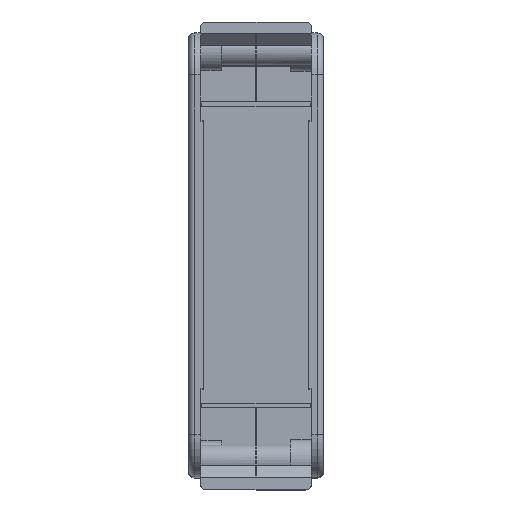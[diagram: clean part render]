
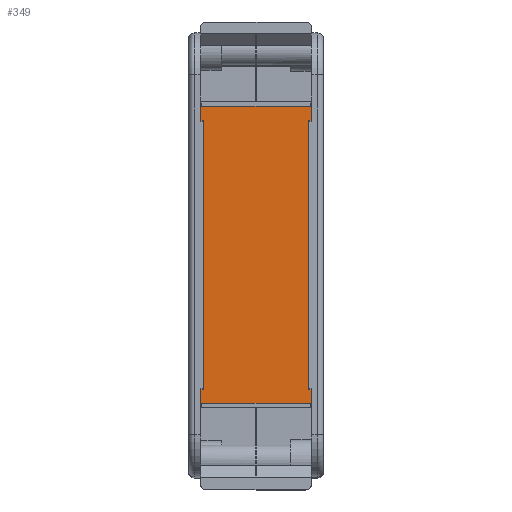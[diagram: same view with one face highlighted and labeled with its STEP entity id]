
A CAD part, top view. The second image highlights one B-rep face of the part: STEP entity #349.
In plain terms, the highlighted planar face has unit normal (0, 0, 1).
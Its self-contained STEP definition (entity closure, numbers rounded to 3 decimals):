
#33 = DIRECTION ( 'NONE',  ( -1., 0., 0. ) ) ;
#119 = DIRECTION ( 'NONE',  ( 0., -1., 0. ) ) ;
#184 = CARTESIAN_POINT ( 'NONE',  ( 9.25, -24.75, 1.5 ) ) ;
#349 = ADVANCED_FACE ( 'NONE', ( #10664 ), #9956, .T. ) ;
#388 = LINE ( 'NONE', #1057, #6143 ) ;
#823 = DIRECTION ( 'NONE',  ( 0., 1., 0. ) ) ;
#1025 = DIRECTION ( 'NONE',  ( 0., 1., 0. ) ) ;
#1057 = CARTESIAN_POINT ( 'NONE',  ( 9.25, 22.4, 1.5 ) ) ;
#1070 = CARTESIAN_POINT ( 'NONE',  ( -9.25, 22.4, 1.5 ) ) ;
#1259 = VERTEX_POINT ( 'NONE', #6418 ) ;
#1467 = ORIENTED_EDGE ( 'NONE', *, *, #2609, .T. ) ;
#1586 = LINE ( 'NONE', #2346, #5118 ) ;
#1613 = DIRECTION ( 'NONE',  ( 0., 0., 1. ) ) ;
#1661 = CARTESIAN_POINT ( 'NONE',  ( -9.25, 22.4, 1.5 ) ) ;
#1847 = VERTEX_POINT ( 'NONE', #10451 ) ;
#2016 = CARTESIAN_POINT ( 'NONE',  ( 9.25, 22.4, 1.5 ) ) ;
#2103 = VECTOR ( 'NONE', #33, 1000. ) ;
#2202 = ORIENTED_EDGE ( 'NONE', *, *, #7789, .T. ) ;
#2226 = CARTESIAN_POINT ( 'NONE',  ( -8.75, -22.4, 1.5 ) ) ;
#2346 = CARTESIAN_POINT ( 'NONE',  ( -9.25, 24.75, 1.5 ) ) ;
#2355 = CARTESIAN_POINT ( 'NONE',  ( -9.25, 22.4, 1.5 ) ) ;
#2360 = DIRECTION ( 'NONE',  ( 0., -1., 0. ) ) ;
#2468 = EDGE_CURVE ( 'NONE', #1259, #10676, #10033, .T. ) ;
#2514 = LINE ( 'NONE', #7216, #4533 ) ;
#2552 = VECTOR ( 'NONE', #11894, 1000. ) ;
#2609 = EDGE_CURVE ( 'NONE', #12076, #6543, #8553, .T. ) ;
#2637 = CARTESIAN_POINT ( 'NONE',  ( 9.25, 24.75, 1.5 ) ) ;
#2648 = VECTOR ( 'NONE', #5729, 1000. ) ;
#2889 = VERTEX_POINT ( 'NONE', #8107 ) ;
#3047 = VECTOR ( 'NONE', #1025, 1000. ) ;
#3348 = ORIENTED_EDGE ( 'NONE', *, *, #11644, .T. ) ;
#3363 = CARTESIAN_POINT ( 'NONE',  ( -9.25, -24.75, 1.5 ) ) ;
#3381 = VERTEX_POINT ( 'NONE', #9322 ) ;
#3831 = AXIS2_PLACEMENT_3D ( 'NONE', #1661, #1613, #5237 ) ;
#3933 = LINE ( 'NONE', #5966, #4540 ) ;
#4343 = LINE ( 'NONE', #8359, #2552 ) ;
#4533 = VECTOR ( 'NONE', #11420, 1000. ) ;
#4540 = VECTOR ( 'NONE', #7907, 1000. ) ;
#4627 = CARTESIAN_POINT ( 'NONE',  ( -9.25, -24.75, 1.5 ) ) ;
#4969 = VERTEX_POINT ( 'NONE', #8559 ) ;
#4981 = ORIENTED_EDGE ( 'NONE', *, *, #11591, .T. ) ;
#5118 = VECTOR ( 'NONE', #10243, 1000. ) ;
#5237 = DIRECTION ( 'NONE',  ( 1., 0., 0. ) ) ;
#5291 = LINE ( 'NONE', #11254, #2103 ) ;
#5606 = EDGE_CURVE ( 'NONE', #12118, #12076, #6470, .T. ) ;
#5729 = DIRECTION ( 'NONE',  ( 1., 0., 0. ) ) ;
#5778 = VECTOR ( 'NONE', #119, 1000. ) ;
#5966 = CARTESIAN_POINT ( 'NONE',  ( -9.25, 24.75, 1.5 ) ) ;
#6011 = EDGE_CURVE ( 'NONE', #1847, #12118, #1586, .T. ) ;
#6143 = VECTOR ( 'NONE', #12185, 1000. ) ;
#6224 = LINE ( 'NONE', #2637, #3047 ) ;
#6417 = CARTESIAN_POINT ( 'NONE',  ( -8.75, 22.4, 1.5 ) ) ;
#6418 = CARTESIAN_POINT ( 'NONE',  ( -9.25, -24.75, 1.5 ) ) ;
#6470 = LINE ( 'NONE', #2355, #7564 ) ;
#6543 = VERTEX_POINT ( 'NONE', #2226 ) ;
#6556 = EDGE_CURVE ( 'NONE', #4969, #1847, #3933, .T. ) ;
#6912 = ORIENTED_EDGE ( 'NONE', *, *, #5606, .T. ) ;
#6996 = ORIENTED_EDGE ( 'NONE', *, *, #8772, .T. ) ;
#7216 = CARTESIAN_POINT ( 'NONE',  ( 9.25, -22.4, 1.5 ) ) ;
#7488 = EDGE_CURVE ( 'NONE', #3381, #1259, #9195, .T. ) ;
#7564 = VECTOR ( 'NONE', #10337, 1000. ) ;
#7789 = EDGE_CURVE ( 'NONE', #2889, #12489, #2514, .T. ) ;
#7907 = DIRECTION ( 'NONE',  ( -1., 0., 0. ) ) ;
#8107 = CARTESIAN_POINT ( 'NONE',  ( 9.25, -22.4, 1.5 ) ) ;
#8162 = CARTESIAN_POINT ( 'NONE',  ( 8.75, 22.4, 1.5 ) ) ;
#8204 = CARTESIAN_POINT ( 'NONE',  ( 8.75, 22.4, 1.5 ) ) ;
#8330 = EDGE_CURVE ( 'NONE', #11615, #12074, #388, .T. ) ;
#8359 = CARTESIAN_POINT ( 'NONE',  ( 9.25, -24.75, 1.5 ) ) ;
#8553 = LINE ( 'NONE', #6417, #9460 ) ;
#8559 = CARTESIAN_POINT ( 'NONE',  ( 9.25, 24.75, 1.5 ) ) ;
#8643 = EDGE_LOOP ( 'NONE', ( #12007, #6912, #1467, #12429, #9977, #11596, #4981, #2202, #3348, #12385, #6996, #8808 ) ) ;
#8772 = EDGE_CURVE ( 'NONE', #12074, #4969, #6224, .T. ) ;
#8808 = ORIENTED_EDGE ( 'NONE', *, *, #6556, .T. ) ;
#9195 = LINE ( 'NONE', #3363, #5778 ) ;
#9322 = CARTESIAN_POINT ( 'NONE',  ( -9.25, -22.4, 1.5 ) ) ;
#9460 = VECTOR ( 'NONE', #2360, 1000. ) ;
#9817 = LINE ( 'NONE', #8204, #11179 ) ;
#9838 = EDGE_CURVE ( 'NONE', #6543, #3381, #5291, .T. ) ;
#9956 = PLANE ( 'NONE',  #3831 ) ;
#9977 = ORIENTED_EDGE ( 'NONE', *, *, #7488, .T. ) ;
#10033 = LINE ( 'NONE', #4627, #2648 ) ;
#10243 = DIRECTION ( 'NONE',  ( 0., -1., 0. ) ) ;
#10337 = DIRECTION ( 'NONE',  ( 1., 0., 0. ) ) ;
#10451 = CARTESIAN_POINT ( 'NONE',  ( -9.25, 24.75, 1.5 ) ) ;
#10664 = FACE_OUTER_BOUND ( 'NONE', #8643, .T. ) ;
#10676 = VERTEX_POINT ( 'NONE', #184 ) ;
#10756 = CARTESIAN_POINT ( 'NONE',  ( 8.75, -22.4, 1.5 ) ) ;
#11179 = VECTOR ( 'NONE', #823, 1000. ) ;
#11254 = CARTESIAN_POINT ( 'NONE',  ( -9.25, -22.4, 1.5 ) ) ;
#11319 = CARTESIAN_POINT ( 'NONE',  ( -8.75, 22.4, 1.5 ) ) ;
#11420 = DIRECTION ( 'NONE',  ( -1., 0., 0. ) ) ;
#11591 = EDGE_CURVE ( 'NONE', #10676, #2889, #4343, .T. ) ;
#11596 = ORIENTED_EDGE ( 'NONE', *, *, #2468, .T. ) ;
#11615 = VERTEX_POINT ( 'NONE', #8162 ) ;
#11644 = EDGE_CURVE ( 'NONE', #12489, #11615, #9817, .T. ) ;
#11894 = DIRECTION ( 'NONE',  ( 0., 1., 0. ) ) ;
#12007 = ORIENTED_EDGE ( 'NONE', *, *, #6011, .T. ) ;
#12074 = VERTEX_POINT ( 'NONE', #2016 ) ;
#12076 = VERTEX_POINT ( 'NONE', #11319 ) ;
#12118 = VERTEX_POINT ( 'NONE', #1070 ) ;
#12185 = DIRECTION ( 'NONE',  ( 1., 0., 0. ) ) ;
#12385 = ORIENTED_EDGE ( 'NONE', *, *, #8330, .T. ) ;
#12429 = ORIENTED_EDGE ( 'NONE', *, *, #9838, .T. ) ;
#12489 = VERTEX_POINT ( 'NONE', #10756 ) ;
